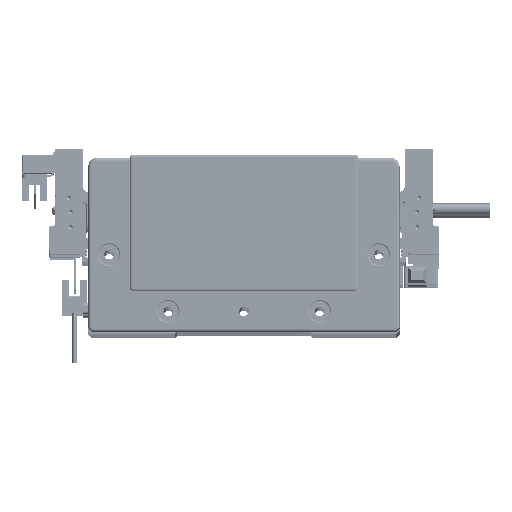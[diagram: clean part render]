
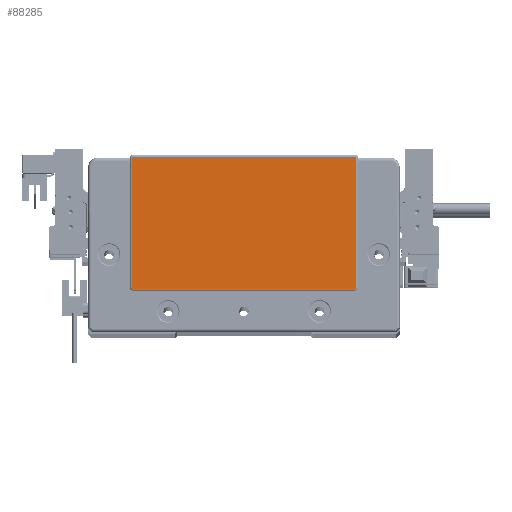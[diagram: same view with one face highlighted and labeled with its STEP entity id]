
A CAD part, top view. The second image highlights one B-rep face of the part: STEP entity #88285.
In plain terms, the highlighted planar face has unit normal (0, 0, 1) as drawn and (0, 0, -1) by its records, which use the part's own axes.
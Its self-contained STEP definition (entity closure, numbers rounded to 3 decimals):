
#100 = AXIS2_PLACEMENT_3D ( 'NONE', #62327, #70556, #55676 ) ;
#1408 = ORIENTED_EDGE ( 'NONE', *, *, #90921, .T. ) ;
#4338 = ORIENTED_EDGE ( 'NONE', *, *, #62459, .T. ) ;
#5897 = DIRECTION ( 'NONE',  ( 1., 0., 0. ) ) ;
#7846 = VERTEX_POINT ( 'NONE', #95785 ) ;
#11283 = VERTEX_POINT ( 'NONE', #27271 ) ;
#12103 = CARTESIAN_POINT ( 'NONE',  ( -59.25, 45.3, -2. ) ) ;
#16387 = CARTESIAN_POINT ( 'NONE',  ( -58.75, -23.8, -2. ) ) ;
#18150 = AXIS2_PLACEMENT_3D ( 'NONE', #55042, #90913, #46213 ) ;
#18281 = AXIS2_PLACEMENT_3D ( 'NONE', #36236, #35651, #82131 ) ;
#19035 = ORIENTED_EDGE ( 'NONE', *, *, #76336, .T. ) ;
#21049 = LINE ( 'NONE', #32168, #92595 ) ;
#21067 = AXIS2_PLACEMENT_3D ( 'NONE', #51368, #69608, #24862 ) ;
#22311 = VERTEX_POINT ( 'NONE', #16387 ) ;
#23130 = ORIENTED_EDGE ( 'NONE', *, *, #104739, .T. ) ;
#23323 = DIRECTION ( 'NONE',  ( -1., 0., 0. ) ) ;
#23875 = DIRECTION ( 'NONE',  ( 0., 1., 0. ) ) ;
#24862 = DIRECTION ( 'NONE',  ( -1., 0., 0. ) ) ;
#27271 = CARTESIAN_POINT ( 'NONE',  ( 58.75, -23.8, -2. ) ) ;
#31549 = DIRECTION ( 'NONE',  ( 0., -1., 0. ) ) ;
#32168 = CARTESIAN_POINT ( 'NONE',  ( -58.75, -23.8, -2. ) ) ;
#35651 = DIRECTION ( 'NONE',  ( 0., 0., -1. ) ) ;
#36236 = CARTESIAN_POINT ( 'NONE',  ( 58.75, 45.3, -2. ) ) ;
#38123 = CARTESIAN_POINT ( 'NONE',  ( 59.25, 45.3, -2. ) ) ;
#41027 = EDGE_CURVE ( 'NONE', #51821, #44183, #104584, .T. ) ;
#44183 = VERTEX_POINT ( 'NONE', #63944 ) ;
#46213 = DIRECTION ( 'NONE',  ( -1., 0., 0. ) ) ;
#46657 = VECTOR ( 'NONE', #31549, 1000. ) ;
#47423 = VECTOR ( 'NONE', #5897, 1000. ) ;
#51368 = CARTESIAN_POINT ( 'NONE',  ( 58.75, -23.3, -2. ) ) ;
#51821 = VERTEX_POINT ( 'NONE', #12103 ) ;
#51877 = ORIENTED_EDGE ( 'NONE', *, *, #110373, .T. ) ;
#52102 = LINE ( 'NONE', #104494, #80351 ) ;
#52938 = CIRCLE ( 'NONE', #21067, 0.5 ) ;
#53162 = EDGE_LOOP ( 'NONE', ( #19035, #79256, #4338, #51877, #23130, #111315, #78950, #1408 ) ) ;
#55042 = CARTESIAN_POINT ( 'NONE',  ( -58.75, 45.3, -2. ) ) ;
#55676 = DIRECTION ( 'NONE',  ( -1., 0., 0. ) ) ;
#55910 = EDGE_CURVE ( 'NONE', #79953, #11283, #52938, .T. ) ;
#58517 = VERTEX_POINT ( 'NONE', #80332 ) ;
#58642 = LINE ( 'NONE', #75711, #46657 ) ;
#62327 = CARTESIAN_POINT ( 'NONE',  ( -58.75, -23.3, -2. ) ) ;
#62459 = EDGE_CURVE ( 'NONE', #11283, #22311, #21049, .T. ) ;
#62505 = FACE_OUTER_BOUND ( 'NONE', #53162, .T. ) ;
#63944 = CARTESIAN_POINT ( 'NONE',  ( -58.75, 45.8, -2. ) ) ;
#69608 = DIRECTION ( 'NONE',  ( 0., 0., -1. ) ) ;
#70556 = DIRECTION ( 'NONE',  ( 0., 0., -1. ) ) ;
#75711 = CARTESIAN_POINT ( 'NONE',  ( 59.25, -23.3, -2. ) ) ;
#76336 = EDGE_CURVE ( 'NONE', #102794, #79953, #58642, .T. ) ;
#78950 = ORIENTED_EDGE ( 'NONE', *, *, #97107, .T. ) ;
#78974 = CARTESIAN_POINT ( 'NONE',  ( 0., 0., -2. ) ) ;
#79256 = ORIENTED_EDGE ( 'NONE', *, *, #55910, .T. ) ;
#79953 = VERTEX_POINT ( 'NONE', #93625 ) ;
#80332 = CARTESIAN_POINT ( 'NONE',  ( -59.25, -23.3, -2. ) ) ;
#80351 = VECTOR ( 'NONE', #23875, 1000. ) ;
#80723 = DIRECTION ( 'NONE',  ( 0., 0., -1. ) ) ;
#82131 = DIRECTION ( 'NONE',  ( -1., 0., 0. ) ) ;
#86278 = AXIS2_PLACEMENT_3D ( 'NONE', #78974, #80723, #97801 ) ;
#88285 = ADVANCED_FACE ( 'NONE', ( #62505 ), #88375, .T. ) ;
#88375 = PLANE ( 'NONE',  #86278 ) ;
#90913 = DIRECTION ( 'NONE',  ( 0., 0., -1. ) ) ;
#90921 = EDGE_CURVE ( 'NONE', #7846, #102794, #114008, .T. ) ;
#92595 = VECTOR ( 'NONE', #23323, 1000. ) ;
#93625 = CARTESIAN_POINT ( 'NONE',  ( 59.25, -23.3, -2. ) ) ;
#94765 = CARTESIAN_POINT ( 'NONE',  ( 58.75, 45.8, -2. ) ) ;
#95785 = CARTESIAN_POINT ( 'NONE',  ( 58.75, 45.8, -2. ) ) ;
#97107 = EDGE_CURVE ( 'NONE', #44183, #7846, #104179, .T. ) ;
#97801 = DIRECTION ( 'NONE',  ( -1., 0., 0. ) ) ;
#102794 = VERTEX_POINT ( 'NONE', #38123 ) ;
#104179 = LINE ( 'NONE', #94765, #47423 ) ;
#104494 = CARTESIAN_POINT ( 'NONE',  ( -59.25, 45.3, -2. ) ) ;
#104584 = CIRCLE ( 'NONE', #18150, 0.5 ) ;
#104739 = EDGE_CURVE ( 'NONE', #58517, #51821, #52102, .T. ) ;
#107198 = CIRCLE ( 'NONE', #100, 0.5 ) ;
#110373 = EDGE_CURVE ( 'NONE', #22311, #58517, #107198, .T. ) ;
#111315 = ORIENTED_EDGE ( 'NONE', *, *, #41027, .T. ) ;
#114008 = CIRCLE ( 'NONE', #18281, 0.5 ) ;
